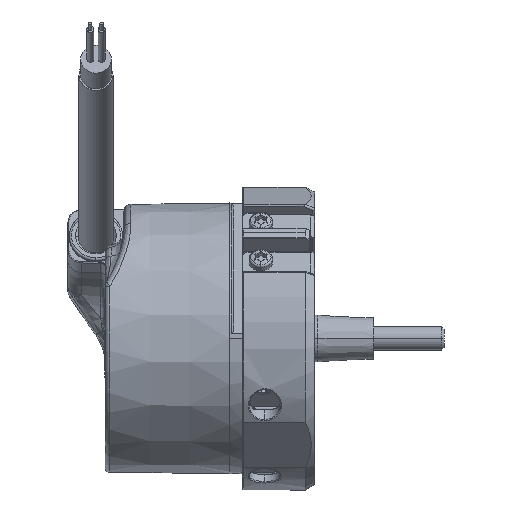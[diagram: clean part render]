
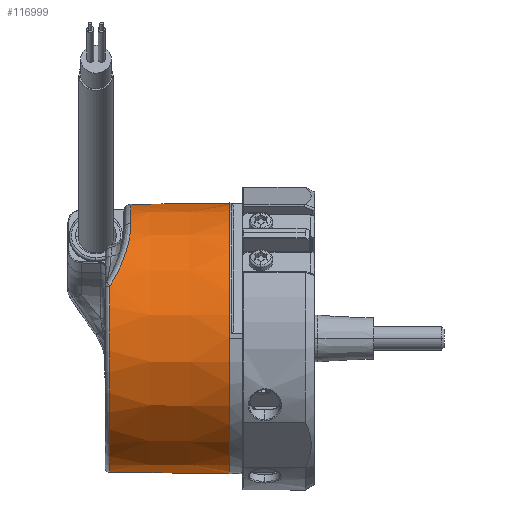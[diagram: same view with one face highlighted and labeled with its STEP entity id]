
A CAD part, top view. The second image highlights one B-rep face of the part: STEP entity #116999.
In plain terms, the highlighted conical face has half-angle 0.5 degrees and reference radius 29 mm.
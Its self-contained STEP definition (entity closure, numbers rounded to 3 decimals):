
#11 = DIRECTION ( 'NONE',  ( 1., 0., 0. ) ) ;
#6960 = AXIS2_PLACEMENT_3D ( 'NONE', #110322, #48834, #120629 ) ;
#8574 = DIRECTION ( 'NONE',  ( 1., 0.009, 0. ) ) ;
#9662 = CARTESIAN_POINT ( 'NONE',  ( -14.016, 20.503, 20.104 ) ) ;
#17240 = VERTEX_POINT ( 'NONE', #123544 ) ;
#18285 = ORIENTED_EDGE ( 'NONE', *, *, #46462, .T. ) ;
#20050 = CARTESIAN_POINT ( 'NONE',  ( -14.374, 19.112, 21.435 ) ) ;
#20094 = CIRCLE ( 'NONE', #25276, 28.677 ) ;
#25276 = AXIS2_PLACEMENT_3D ( 'NONE', #93898, #32403, #104122 ) ;
#29150 = CARTESIAN_POINT ( 'NONE',  ( 19., 0., 0. ) ) ;
#30324 = CARTESIAN_POINT ( 'NONE',  ( -15.389, 16.172, 23.755 ) ) ;
#30691 = CARTESIAN_POINT ( 'NONE',  ( -13.513, 28.716, 0. ) ) ;
#32403 = DIRECTION ( 'NONE',  ( 1., 0., 0. ) ) ;
#33045 = AXIS2_PLACEMENT_3D ( 'NONE', #61407, #11, #71737 ) ;
#34796 = ORIENTED_EDGE ( 'NONE', *, *, #105677, .T. ) ;
#38767 = CARTESIAN_POINT ( 'NONE',  ( -13.513, 24.57, 14.863 ) ) ;
#39363 = DIRECTION ( 'NONE',  ( 1., 0., 0. ) ) ;
#40540 = CARTESIAN_POINT ( 'NONE',  ( -16.572, 13.661, 25.238 ) ) ;
#46462 = EDGE_CURVE ( 'NONE', #128458, #86073, #20094, .T. ) ;
#46948 = LINE ( 'NONE', #131438, #98393 ) ;
#48834 = DIRECTION ( 'NONE',  ( 1., 0., 0. ) ) ;
#50004 = CARTESIAN_POINT ( 'NONE',  ( -13.513, 23.753, 16.214 ) ) ;
#50898 = CARTESIAN_POINT ( 'NONE',  ( -17.619, 11.76, 26.167 ) ) ;
#52409 = LINE ( 'NONE', #105068, #62088 ) ;
#53149 = ORIENTED_EDGE ( 'NONE', *, *, #107706, .F. ) ;
#60781 = CARTESIAN_POINT ( 'NONE',  ( -13.798, 21.566, 18.961 ) ) ;
#61407 = CARTESIAN_POINT ( 'NONE',  ( 7.5, 0., 0. ) ) ;
#62088 = VECTOR ( 'NONE', #125278, 1000. ) ;
#63057 = EDGE_LOOP ( 'NONE', ( #108536, #34796, #114546, #18285, #126260, #53149 ) ) ;
#71120 = CARTESIAN_POINT ( 'NONE',  ( -13.955, 20.775, 19.823 ) ) ;
#71737 = DIRECTION ( 'NONE',  ( 0., -1., 0. ) ) ;
#72373 = VERTEX_POINT ( 'NONE', #132395 ) ;
#73057 = AXIS2_PLACEMENT_3D ( 'NONE', #29150, #39363, #80746 ) ;
#76999 = CIRCLE ( 'NONE', #6960, 28.716 ) ;
#77275 = CONICAL_SURFACE ( 'NONE', #73057, 29., 0.009 ) ;
#80746 = DIRECTION ( 'NONE',  ( 0., -1., 0. ) ) ;
#81467 = CARTESIAN_POINT ( 'NONE',  ( -14.216, 19.677, 20.921 ) ) ;
#86073 = VERTEX_POINT ( 'NONE', #131829 ) ;
#89298 = VERTEX_POINT ( 'NONE', #30691 ) ;
#91789 = CARTESIAN_POINT ( 'NONE',  ( -14.923, 17.379, 22.895 ) ) ;
#93898 = CARTESIAN_POINT ( 'NONE',  ( -18.009, 0., 0. ) ) ;
#98393 = VECTOR ( 'NONE', #8574, 1000. ) ;
#100458 = EDGE_CURVE ( 'NONE', #86073, #72373, #52409, .T. ) ;
#102022 = CARTESIAN_POINT ( 'NONE',  ( -16.255, 14.297, 24.887 ) ) ;
#104122 = DIRECTION ( 'NONE',  ( 0., 1., 0. ) ) ;
#105068 = CARTESIAN_POINT ( 'NONE',  ( 19., -29., 0. ) ) ;
#105677 = EDGE_CURVE ( 'NONE', #89298, #17240, #76999, .T. ) ;
#106797 = CIRCLE ( 'NONE', #33045, 28.9 ) ;
#107706 = EDGE_CURVE ( 'NONE', #119819, #72373, #106797, .T. ) ;
#108536 = ORIENTED_EDGE ( 'NONE', *, *, #111350, .F. ) ;
#110322 = CARTESIAN_POINT ( 'NONE',  ( -13.513, 0., 0. ) ) ;
#111350 = EDGE_CURVE ( 'NONE', #89298, #119819, #46948, .T. ) ;
#112350 = CARTESIAN_POINT ( 'NONE',  ( -17.253, 12.394, 25.877 ) ) ;
#114365 = B_SPLINE_CURVE_WITH_KNOTS ( 'NONE', 3,
 ( #38767, #50004, #122262, #60781, #132506, #71120, #9662, #81467, #20050, #91789, #30324, #102022, #40540, #112350, #50898, #122692 ),
 .UNSPECIFIED., .F., .F.,
 ( 4, 2, 2, 2, 2, 2, 2, 4 ),
 ( 0., 0.005, 0.006, 0.007, 0.009, 0.014, 0.016, 0.019 ),
 .UNSPECIFIED. ) ;
#114546 = ORIENTED_EDGE ( 'NONE', *, *, #128685, .T. ) ;
#116925 = CARTESIAN_POINT ( 'NONE',  ( -18.009, 11.126, 26.431 ) ) ;
#116999 = ADVANCED_FACE ( 'NONE', ( #117406 ), #77275, .T. ) ;
#117406 = FACE_OUTER_BOUND ( 'NONE', #63057, .T. ) ;
#119819 = VERTEX_POINT ( 'NONE', #121542 ) ;
#120629 = DIRECTION ( 'NONE',  ( 0., -1., 0. ) ) ;
#121542 = CARTESIAN_POINT ( 'NONE',  ( 7.5, 28.9, 0. ) ) ;
#122262 = CARTESIAN_POINT ( 'NONE',  ( -13.587, 22.835, 17.481 ) ) ;
#122692 = CARTESIAN_POINT ( 'NONE',  ( -18.009, 11.126, 26.431 ) ) ;
#123544 = CARTESIAN_POINT ( 'NONE',  ( -13.513, 24.57, 14.863 ) ) ;
#125278 = DIRECTION ( 'NONE',  ( 1., -0.009, 0. ) ) ;
#126260 = ORIENTED_EDGE ( 'NONE', *, *, #100458, .T. ) ;
#128458 = VERTEX_POINT ( 'NONE', #116925 ) ;
#128685 = EDGE_CURVE ( 'NONE', #17240, #128458, #114365, .T. ) ;
#131438 = CARTESIAN_POINT ( 'NONE',  ( 19., 29., 0. ) ) ;
#131829 = CARTESIAN_POINT ( 'NONE',  ( -18.009, -28.677, 0. ) ) ;
#132395 = CARTESIAN_POINT ( 'NONE',  ( 7.5, -28.9, 0. ) ) ;
#132506 = CARTESIAN_POINT ( 'NONE',  ( -13.846, 21.306, 19.252 ) ) ;
